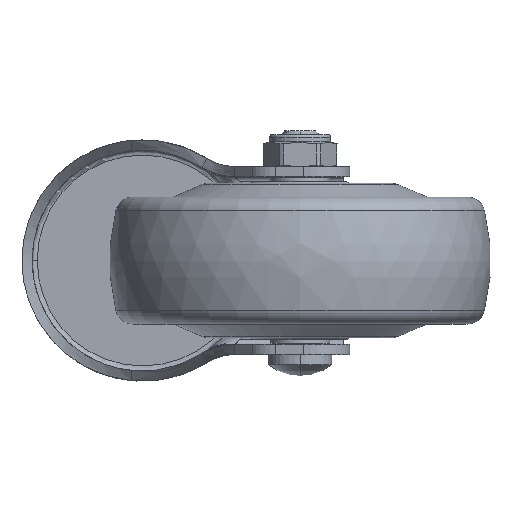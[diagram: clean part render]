
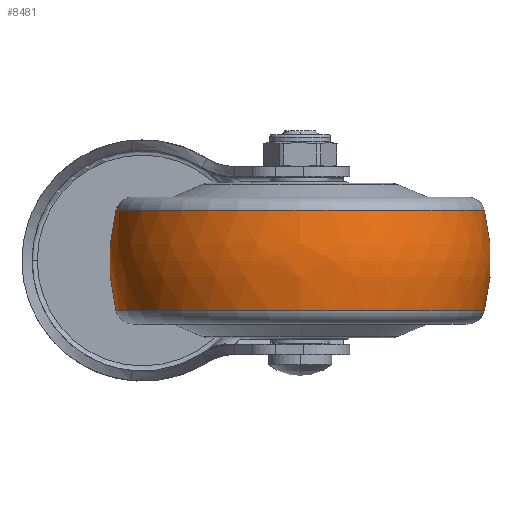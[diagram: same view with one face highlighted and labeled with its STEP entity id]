
A CAD part, front view. The second image highlights one B-rep face of the part: STEP entity #8481.
In plain terms, the highlighted free-form (B-spline) face has degree [3, 3] with [7, 4] control points.
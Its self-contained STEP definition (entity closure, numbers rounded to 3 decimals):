
#8019=CARTESIAN_POINT('',(0.,-2.5,0.));
#8020=DIRECTION('',(0.,0.,1.));
#8021=DIRECTION('',(0.247,0.969,0.));
#8022=AXIS2_PLACEMENT_3D('',#8019,#8020,#8021);
#8024=CARTESIAN_POINT('',(0.,2.5,0.));
#8025=DIRECTION('',(0.,0.,-1.));
#8026=DIRECTION('',(0.247,-0.969,0.));
#8027=AXIS2_PLACEMENT_3D('',#8024,#8025,#8026);
#8029=CARTESIAN_POINT('',(9.863,0.,0.));
#8030=DIRECTION('',(-1.,0.,0.));
#8031=DIRECTION('',(0.,1.,0.));
#8032=AXIS2_PLACEMENT_3D('',#8029,#8030,#8031);
#8044=CARTESIAN_POINT('',(-9.863,0.,0.));
#8045=DIRECTION('',(-1.,0.,0.));
#8046=DIRECTION('',(0.,1.,0.));
#8047=AXIS2_PLACEMENT_3D('',#8044,#8045,#8046);
#8324=CARTESIAN_POINT('',(9.863,36.265,0.));
#8325=CARTESIAN_POINT('',(-9.863,36.265,0.));
#8326=VERTEX_POINT('',#8324);
#8327=VERTEX_POINT('',#8325);
#8364=CARTESIAN_POINT('',(9.863,-36.265,0.));
#8365=CARTESIAN_POINT('',(-9.863,-36.265,0.));
#8366=VERTEX_POINT('',#8364);
#8367=VERTEX_POINT('',#8365);
#8444=CARTESIAN_POINT('',(-10.249,-36.093,
2.271));
#8445=CARTESIAN_POINT('',(-3.494,-37.88,
2.383));
#8446=CARTESIAN_POINT('',(3.494,-37.88,2.383));
#8447=CARTESIAN_POINT('',(10.249,-36.093,2.271));
#8448=CARTESIAN_POINT('',(-10.249,-37.491,
-19.941));
#8449=CARTESIAN_POINT('',(-3.494,-39.347,
-20.928));
#8450=CARTESIAN_POINT('',(3.494,-39.347,
-20.928));
#8451=CARTESIAN_POINT('',(10.249,-37.491,
-19.941));
#8452=CARTESIAN_POINT('',(-10.249,-22.256,
-36.165));
#8453=CARTESIAN_POINT('',(-3.494,-23.358,
-37.955));
#8454=CARTESIAN_POINT('',(3.494,-23.358,
-37.955));
#8455=CARTESIAN_POINT('',(10.249,-22.256,
-36.165));
#8456=CARTESIAN_POINT('',(-10.249,0.,-36.165));
#8457=CARTESIAN_POINT('',(-3.494,0.,-37.955));
#8458=CARTESIAN_POINT('',(3.494,0.,-37.955));
#8459=CARTESIAN_POINT('',(10.249,0.,-36.165));
#8460=CARTESIAN_POINT('',(-10.249,22.256,
-36.165));
#8461=CARTESIAN_POINT('',(-3.494,23.358,
-37.955));
#8462=CARTESIAN_POINT('',(3.494,23.358,-37.955));
#8463=CARTESIAN_POINT('',(10.249,22.256,-36.165));
#8464=CARTESIAN_POINT('',(-10.249,37.491,
-19.941));
#8465=CARTESIAN_POINT('',(-3.494,39.347,
-20.928));
#8466=CARTESIAN_POINT('',(3.494,39.347,-20.928));
#8467=CARTESIAN_POINT('',(10.249,37.491,-19.941));
#8468=CARTESIAN_POINT('',(-10.249,36.093,2.271));
#8469=CARTESIAN_POINT('',(-3.494,37.88,2.383));
#8470=CARTESIAN_POINT('',(3.494,37.88,2.383));
#8471=CARTESIAN_POINT('',(10.249,36.093,2.271));
#8472=(BOUNDED_SURFACE()B_SPLINE_SURFACE(3,3,((#8444,#8445,#8446,#8447),(#8448,
#8449,#8450,#8451),(#8452,#8453,#8454,#8455),(#8456,#8457,#8458,#8459),(#8460,
#8461,#8462,#8463),(#8464,#8465,#8466,#8467),(#8468,#8469,#8470,#8471)),
.UNSPECIFIED.,.F.,.F.,.F.)B_SPLINE_SURFACE_WITH_KNOTS((4,3,4),(4,4),(0.,1.,
2.),(0.,1.),.UNSPECIFIED.)GEOMETRIC_REPRESENTATION_ITEM()RATIONAL_B_SPLINE_SURFACE(((1.207,1.181,1.181,1.207),(
0.953,0.932,0.932,0.953),(
0.953,0.932,0.932,0.953),(
1.207,1.181,1.181,1.207),(
0.953,0.932,0.932,0.953),(
0.953,0.932,0.932,0.953),(
1.207,1.181,1.181,1.207)))REPRESENTATION_ITEM('')SURFACE());
#8473=ORIENTED_EDGE('',*,*,#8433,.T.);
#8475=ORIENTED_EDGE('',*,*,#8474,.T.);
#8476=ORIENTED_EDGE('',*,*,#8437,.F.);
#8478=ORIENTED_EDGE('',*,*,#8477,.F.);
#8479=EDGE_LOOP('',(#8473,#8475,#8476,#8478));
#8480=FACE_OUTER_BOUND('',#8479,.F.);
#8023=CIRCLE('',#8022,40.);
#8028=CIRCLE('',#8027,40.);
#8033=CIRCLE('',#8032,36.265);
#8048=CIRCLE('',#8047,36.265);
#8433=EDGE_CURVE('',#8326,#8327,#8023,.T.);
#8437=EDGE_CURVE('',#8366,#8367,#8028,.T.);
#8474=EDGE_CURVE('',#8327,#8367,#8048,.T.);
#8477=EDGE_CURVE('',#8326,#8366,#8033,.T.);
#8481=ADVANCED_FACE('',(#8480),#8472,.T.);
